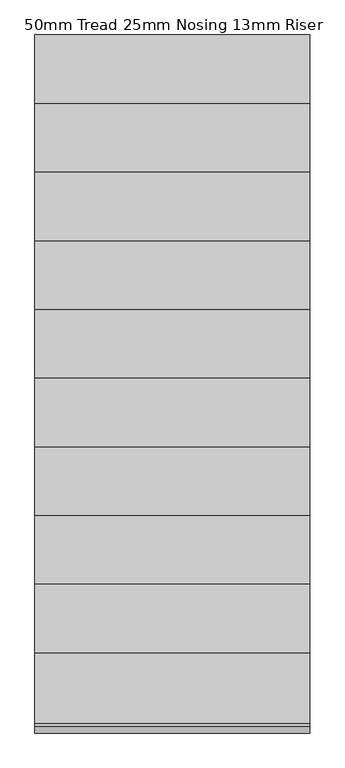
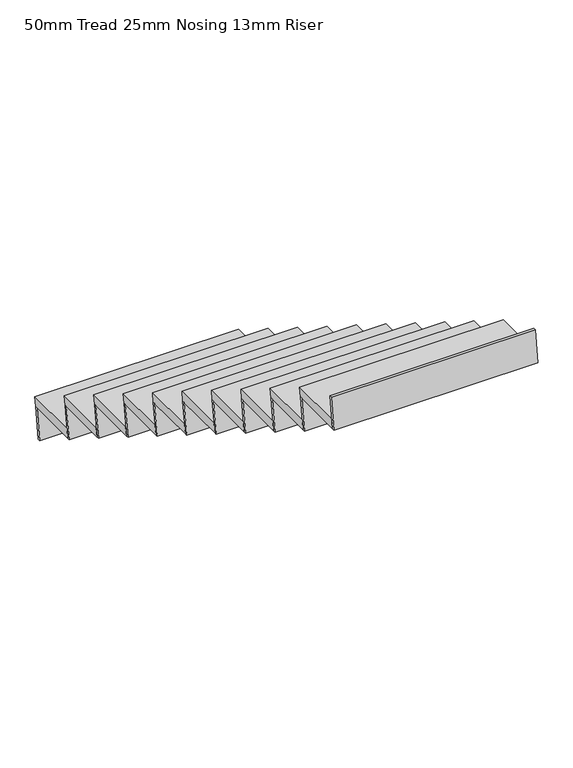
"""IFC4 building model written with IfcOpenShell, lengths in millimetres: stair flight geometry, 50mm Tread 25mm Nosing 13mm Riser."""

import ifcopenshell
import ifcopenshell.guid

model = None  # the IFC model being written
_history = None  # IfcOwnerHistory: only IFC2X3 demands one
_inside = {}  # id of a spatial element -> (the spatial element, [elements in it])
_under = {}  # id of a project, library or spatial element -> (it, [spatial elements below it])
_declared = {}  # id of a project -> (the project, [libraries it declares])
_typed = {}  # id of a type object -> (the type object, [elements of that type])
_made_of = {}  # id of a material, layer set ... -> (it, [elements and type objects made of it])


def new_model(schema):
    """Start an empty IFC model of exactly this schema.

    Asked for "IFC4X3", IfcOpenShell would pick the latest addendum, in which some entities
    have other attributes; the version numbers below select the first issue.
    IFC2X3 requires an IfcOwnerHistory on every rooted entity: one is made here for all.
    """
    global model, _history
    if schema == "IFC4X3":
        model = ifcopenshell.file(schema_version=(4, 3, 0, 0))
    else:
        model = ifcopenshell.file(schema=schema)
    _inside.clear()
    _under.clear()
    _declared.clear()
    _typed.clear()
    _made_of.clear()
    _history = None
    if model.schema == "IFC2X3":
        org = make("IfcOrganization", Name="unknown")
        user = make(
            "IfcPersonAndOrganization",
            ThePerson=make("IfcPerson", FamilyName="unknown"),
            TheOrganization=org,
        )
        app = make(
            "IfcApplication",
            ApplicationDeveloper=org,
            Version="unknown",
            ApplicationFullName="unknown",
            ApplicationIdentifier="unknown",
        )
        _history = make(
            "IfcOwnerHistory",
            OwningUser=user,
            OwningApplication=app,
            ChangeAction="ADDED",
            CreationDate=0,
        )
    return model


def make(cls, **values):
    """One entity of the class cls with the attributes given. An attribute that is None is left unset."""
    return model.create_entity(
        cls, **{name: value for name, value in values.items() if value is not None}
    )


def rooted(cls, **values):
    """An entity with a GlobalId (a new one), such as an element, a storey or a relation."""
    return make(cls, GlobalId=ifcopenshell.guid.new(), OwnerHistory=_history, **values)


def si_unit(unit_type, name, prefix=None):
    """IfcSIUnit, for example si_unit("LENGTHUNIT", "METRE", prefix="MILLI")."""
    return make("IfcSIUnit", UnitType=unit_type, Prefix=prefix, Name=name)


def assignment(units):
    """IfcUnitAssignment: the units of a project."""
    return None if units is None else make("IfcUnitAssignment", Units=units)


def point(xyz):
    """IfcCartesianPoint."""
    return None if xyz is None else make("IfcCartesianPoint", Coordinates=xyz)


def direction(xyz):
    """IfcDirection."""
    return None if xyz is None else make("IfcDirection", DirectionRatios=xyz)


def frame(location, z_axis=None, x_axis=None):
    """IfcAxis2Placement3D, a coordinate frame: its origin and axes. An axis left out is left unset."""
    return make(
        "IfcAxis2Placement3D",
        Location=point(location),
        Axis=direction(z_axis),
        RefDirection=direction(x_axis),
    )


def origin():
    """The frame at (0, 0, 0) with its axes left unset."""
    return frame((0.0, 0.0, 0.0))


def place(relative_to, where):
    """IfcLocalPlacement: puts the frame where relative to a parent placement (None: the world)."""
    return make(
        "IfcLocalPlacement", PlacementRelTo=relative_to, RelativePlacement=where
    )


def context(
    kind, dimensions, precision=None, world=None, true_north=None, identifier=None
):
    """IfcGeometricRepresentationContext, for example the 3D "Model" context."""
    return make(
        "IfcGeometricRepresentationContext",
        ContextIdentifier=identifier,
        ContextType=kind,
        CoordinateSpaceDimension=dimensions,
        Precision=precision,
        WorldCoordinateSystem=world,
        TrueNorth=true_north,
    )


def project(units=None, contexts=None):
    """IfcProject with its units and contexts."""
    return rooted(
        "IfcProject",
        Name="project",
        RepresentationContexts=contexts,
        UnitsInContext=assignment(units),
    )


def spatial(cls, under=None, at=None, **own):
    """A site, building, storey or space (cls), placed at a placement, below another one or the project."""
    s = rooted(cls, ObjectPlacement=at, **own)
    if under is not None:
        _under.setdefault(under.id(), (under, []))[1].append(s)
    return s


def polyline(points):
    """IfcPolyline through the points."""
    return make("IfcPolyline", Points=[point(p) for p in points])


def outline(outer, holes=None, kind="AREA"):
    """IfcArbitraryClosedProfileDef: a profile drawn as a closed curve; with holes, ...WithVoids."""
    if holes is None:
        return make("IfcArbitraryClosedProfileDef", ProfileType=kind, OuterCurve=outer)
    return make(
        "IfcArbitraryProfileDefWithVoids",
        ProfileType=kind,
        OuterCurve=outer,
        InnerCurves=holes,
    )


def extrude(swept, where, along, depth):
    """IfcExtrudedAreaSolid: the profile swept, set in the frame where, extruded along a direction by depth."""
    return make(
        "IfcExtrudedAreaSolid",
        SweptArea=swept,
        Position=where,
        ExtrudedDirection=direction(along),
        Depth=depth,
    )


def shape(context_of_items, identifier, shape_type, items):
    """IfcShapeRepresentation: the items that make up one representation, for example the "Body"."""
    return make(
        "IfcShapeRepresentation",
        ContextOfItems=context_of_items,
        RepresentationIdentifier=identifier,
        RepresentationType=shape_type,
        Items=items,
    )


def source(mapping_origin, context_of_items, identifier, shape_type, items):
    """IfcRepresentationMap: a shape defined once, which mapped items show again and again."""
    return make(
        "IfcRepresentationMap",
        MappingOrigin=mapping_origin,
        MappedRepresentation=shape(context_of_items, identifier, shape_type, items),
    )


def transform(
    local_origin,
    x_axis=None,
    y_axis=None,
    z_axis=None,
    scale=None,
    scale2=None,
    scale3=None,
    uniform=True,
):
    """IfcCartesianTransformationOperator3D, or its non-uniform kind. x_axis, y_axis, z_axis: its Axis1, 2, 3."""
    if uniform:
        return make(
            "IfcCartesianTransformationOperator3D",
            Axis1=direction(x_axis),
            Axis2=direction(y_axis),
            LocalOrigin=point(local_origin),
            Scale=scale,
            Axis3=direction(z_axis),
        )
    return make(
        "IfcCartesianTransformationOperator3DnonUniform",
        Axis1=direction(x_axis),
        Axis2=direction(y_axis),
        LocalOrigin=point(local_origin),
        Scale=scale,
        Axis3=direction(z_axis),
        Scale2=scale2,
        Scale3=scale3,
    )


def mapped(mapping_source, mapping_target):
    """IfcMappedItem: shows the shape of a source again, moved by a transform."""
    return make(
        "IfcMappedItem", MappingSource=mapping_source, MappingTarget=mapping_target
    )


def made_of(thing, what):
    """Note that an element or type object is made of a material, layer set ...; save() writes the relation."""
    if what is not None:
        _made_of.setdefault(what.id(), (what, []))[1].append(thing)
    return thing


def element(
    cls,
    number,
    at=None,
    inside=None,
    cuts=None,
    type_object=None,
    material=None,
    context=None,
    identifier="Body",
    shape_type=None,
    held_by="IfcProductDefinitionShape",
    body=None,
    shapes=None,
    **own,
):
    """One element of the class cls, such as IfcWall. Its Tag is "e" and its number.

    at: its placement. inside: the storey or other place that contains it. cuts: it is an
    opening in that element (IfcRelVoidsElement). A single representation is given by context,
    identifier, shape_type and body (its items); several are given by shapes. held_by: the class
    of the entity that holds the representations. save() writes the other relations.
    """
    e = rooted(cls, Tag="e%d" % number, ObjectPlacement=at, **own)
    if body is not None:
        shapes = [shape(context, identifier, shape_type, body)]
    if shapes is not None:
        e.Representation = make(held_by, Representations=shapes)
    if inside is not None:
        _inside.setdefault(inside.id(), (inside, []))[1].append(e)
    if cuts is not None:
        rooted(
            "IfcRelVoidsElement", RelatingBuildingElement=cuts, RelatedOpeningElement=e
        )
    if type_object is not None:
        _typed.setdefault(type_object.id(), (type_object, []))[1].append(e)
    return made_of(e, material)


def aggregate(whole, parts):
    """IfcRelAggregates: a whole, such as a stair, and the parts it consists of."""
    return rooted("IfcRelAggregates", RelatingObject=whole, RelatedObjects=parts)


def save(model, path):
    """Write the relations noted so far, then the file.

    IfcRelAggregates (storeys below a building ...), IfcRelContainedInSpatialStructure (elements
    in a storey), IfcRelDefinesByType, IfcRelAssociatesMaterial and IfcRelDeclares: one each for
    every whole, place, type object, material and project.
    """
    for whole, parts in _under.values():
        aggregate(whole, parts)
    for where, things in _inside.values():
        rooted(
            "IfcRelContainedInSpatialStructure",
            RelatedElements=things,
            RelatingStructure=where,
        )
    for kind, things in _typed.values():
        rooted("IfcRelDefinesByType", RelatedObjects=things, RelatingType=kind)
    for what, things in _made_of.values():
        rooted("IfcRelAssociatesMaterial", RelatedObjects=things, RelatingMaterial=what)
    for by, libraries in _declared.values():
        rooted("IfcRelDeclares", RelatingContext=by, RelatedDefinitions=libraries)
    model.write(path)


def stair_flight_50mm_tread_25mm_nosing_13mm_riser_29f21586(model_context):
    return source(origin(), model_context, "Body", "SweptSolid", [
        extrude(outline(polyline([(1750.5392059, 2072.7272727), (2050.5392059, 2072.7272727), (2043.3023638, 2022.7272727), (1743.3023638, 2022.7272727), (1750.5392059, 2072.7272727)])), frame((2568.6567657, 0.0, 0.0), z_axis=(1.0, 0.0, 0.0), x_axis=(0.0, 1.0, 0.0)), (0.0, 0.0, 1.0), 1100.0),
        extrude(outline(polyline([(2043.3023638, 2022.7272727), (2018.3023638, 1850.0), (2005.6721127, 1850.0), (2030.6721127, 2022.7272727), (2043.3023638, 2022.7272727)])), frame((2568.6567657, 0.0, 0.0), z_axis=(1.0, 0.0, 0.0), x_axis=(0.0, 1.0, 0.0)), (0.0, 0.0, 1.0), 1100.0),
        extrude(outline(polyline([(1768.3023638, 2195.4545455), (1743.3023638, 2022.7272727), (1730.6721127, 2022.7272727), (1755.6721127, 2195.4545455), (1768.3023638, 2195.4545455)])), frame((2568.6567657, 0.0, 0.0), z_axis=(1.0, 0.0, 0.0), x_axis=(0.0, 1.0, 0.0)), (0.0, 0.0, 1.0), 1100.0),
        extrude(outline(polyline([(1475.5392059, 2245.4545455), (1775.5392059, 2245.4545455), (1768.3023638, 2195.4545455), (1468.3023638, 2195.4545455), (1475.5392059, 2245.4545455)])), frame((2568.6567657, 0.0, 0.0), z_axis=(1.0, 0.0, 0.0), x_axis=(0.0, 1.0, 0.0)), (0.0, 0.0, 1.0), 1100.0),
        extrude(outline(polyline([(1493.3023638, 2368.1818182), (1468.3023638, 2195.4545455), (1455.6721127, 2195.4545455), (1480.6721127, 2368.1818182), (1493.3023638, 2368.1818182)])), frame((2568.6567657, 0.0, 0.0), z_axis=(1.0, 0.0, 0.0), x_axis=(0.0, 1.0, 0.0)), (0.0, 0.0, 1.0), 1100.0),
        extrude(outline(polyline([(1200.5392059, 2418.1818182), (1500.5392059, 2418.1818182), (1493.3023638, 2368.1818182), (1193.3023638, 2368.1818182), (1200.5392059, 2418.1818182)])), frame((2568.6567657, 0.0, 0.0), z_axis=(1.0, 0.0, 0.0), x_axis=(0.0, 1.0, 0.0)), (0.0, 0.0, 1.0), 1100.0),
        extrude(outline(polyline([(1218.3023638, 2540.9090909), (1193.3023638, 2368.1818182), (1180.6721127, 2368.1818182), (1205.6721127, 2540.9090909), (1218.3023638, 2540.9090909)])), frame((2568.6567657, 0.0, 0.0), z_axis=(1.0, 0.0, 0.0), x_axis=(0.0, 1.0, 0.0)), (0.0, 0.0, 1.0), 1100.0),
        extrude(outline(polyline([(925.5392059, 2590.9090909), (1225.5392059, 2590.9090909), (1218.3023638, 2540.9090909), (918.3023638, 2540.9090909), (925.5392059, 2590.9090909)])), frame((2568.6567657, 0.0, 0.0), z_axis=(1.0, 0.0, 0.0), x_axis=(0.0, 1.0, 0.0)), (0.0, 0.0, 1.0), 1100.0),
        extrude(outline(polyline([(943.3023638, 2713.6363636), (918.3023638, 2540.9090909), (905.6721127, 2540.9090909), (930.6721127, 2713.6363636), (943.3023638, 2713.6363636)])), frame((2568.6567657, 0.0, 0.0), z_axis=(1.0, 0.0, 0.0), x_axis=(0.0, 1.0, 0.0)), (0.0, 0.0, 1.0), 1100.0),
        extrude(outline(polyline([(650.5392059, 2763.6363636), (950.5392059, 2763.6363636), (943.3023638, 2713.6363636), (643.3023638, 2713.6363636), (650.5392059, 2763.6363636)])), frame((2568.6567657, 0.0, 0.0), z_axis=(1.0, 0.0, 0.0), x_axis=(0.0, 1.0, 0.0)), (0.0, 0.0, 1.0), 1100.0),
        extrude(outline(polyline([(668.3023638, 2886.3636364), (643.3023638, 2713.6363636), (630.6721127, 2713.6363636), (655.6721127, 2886.3636364), (668.3023638, 2886.3636364)])), frame((2568.6567657, 0.0, 0.0), z_axis=(1.0, 0.0, 0.0), x_axis=(0.0, 1.0, 0.0)), (0.0, 0.0, 1.0), 1100.0),
        extrude(outline(polyline([(375.5392059, 2936.3636364), (675.5392059, 2936.3636364), (668.3023638, 2886.3636364), (368.3023638, 2886.3636364), (375.5392059, 2936.3636364)])), frame((2568.6567657, 0.0, 0.0), z_axis=(1.0, 0.0, 0.0), x_axis=(0.0, 1.0, 0.0)), (0.0, 0.0, 1.0), 1100.0),
        extrude(outline(polyline([(393.3023638, 3059.0909091), (368.3023638, 2886.3636364), (355.6721127, 2886.3636364), (380.6721127, 3059.0909091), (393.3023638, 3059.0909091)])), frame((2568.6567657, 0.0, 0.0), z_axis=(1.0, 0.0, 0.0), x_axis=(0.0, 1.0, 0.0)), (0.0, 0.0, 1.0), 1100.0),
        extrude(outline(polyline([(100.5392059, 3109.0909091), (400.5392059, 3109.0909091), (393.3023638, 3059.0909091), (93.3023638, 3059.0909091), (100.5392059, 3109.0909091)])), frame((2568.6567657, 0.0, 0.0), z_axis=(1.0, 0.0, 0.0), x_axis=(0.0, 1.0, 0.0)), (0.0, 0.0, 1.0), 1100.0),
        extrude(outline(polyline([(118.3023638, 3231.8181818), (93.3023638, 3059.0909091), (80.6721127, 3059.0909091), (105.6721127, 3231.8181818), (118.3023638, 3231.8181818)])), frame((2568.6567657, 0.0, 0.0), z_axis=(1.0, 0.0, 0.0), x_axis=(0.0, 1.0, 0.0)), (0.0, 0.0, 1.0), 1100.0),
        extrude(outline(polyline([(-174.4607941, 3281.8181818), (125.5392059, 3281.8181818), (118.3023638, 3231.8181818), (-181.6976362, 3231.8181818), (-174.4607941, 3281.8181818)])), frame((2568.6567657, 0.0, 0.0), z_axis=(1.0, 0.0, 0.0), x_axis=(0.0, 1.0, 0.0)), (0.0, 0.0, 1.0), 1100.0),
        extrude(outline(polyline([(-156.6976362, 3404.5454545), (-181.6976362, 3231.8181818), (-194.3278873, 3231.8181818), (-169.3278873, 3404.5454545), (-156.6976362, 3404.5454545)])), frame((2568.6567657, 0.0, 0.0), z_axis=(1.0, 0.0, 0.0), x_axis=(0.0, 1.0, 0.0)), (0.0, 0.0, 1.0), 1100.0),
        extrude(outline(polyline([(-449.4607941, 3454.5454545), (-149.4607941, 3454.5454545), (-156.6976362, 3404.5454545), (-456.6976362, 3404.5454545), (-449.4607941, 3454.5454545)])), frame((2568.6567657, 0.0, 0.0), z_axis=(1.0, 0.0, 0.0), x_axis=(0.0, 1.0, 0.0)), (0.0, 0.0, 1.0), 1100.0),
        extrude(outline(polyline([(-431.6976362, 3577.2727273), (-456.6976362, 3404.5454545), (-469.3278873, 3404.5454545), (-444.3278873, 3577.2727273), (-431.6976362, 3577.2727273)])), frame((2568.6567657, 0.0, 0.0), z_axis=(1.0, 0.0, 0.0), x_axis=(0.0, 1.0, 0.0)), (0.0, 0.0, 1.0), 1100.0),
        extrude(outline(polyline([(-706.6976362, 3750.0), (-731.6976362, 3577.2727273), (-744.3278873, 3577.2727273), (-719.3278873, 3750.0), (-706.6976362, 3750.0)])), frame((2568.6567657, 0.0, 0.0), z_axis=(1.0, 0.0, 0.0), x_axis=(0.0, 1.0, 0.0)), (0.0, 0.0, 1.0), 1100.0),
        extrude(outline(polyline([(-724.4607941, 3627.2727273), (-424.4607941, 3627.2727273), (-431.6976362, 3577.2727273), (-731.6976362, 3577.2727273), (-724.4607941, 3627.2727273)])), frame((2568.6567657, 0.0, 0.0), z_axis=(1.0, 0.0, 0.0), x_axis=(0.0, 1.0, 0.0)), (0.0, 0.0, 1.0), 1100.0),
    ])


if __name__ == "__main__":
    model = new_model("IFC4")
    model_context = context("Model", 3, world=origin())
    ifc_project = project(units=[si_unit("LENGTHUNIT", "METRE", prefix="MILLI")], contexts=[model_context])
    site = spatial("IfcSite", under=ifc_project)
    building = spatial("IfcBuilding", under=site)
    placement = place(None, origin())
    stair_flight_50mm_tread_25mm_nosing_13mm_riser_shape = stair_flight_50mm_tread_25mm_nosing_13mm_riser_29f21586(model_context)
    element("IfcStairFlight", 1, ObjectType="50mm Tread 25mm Nosing 13mm Riser", at=placement, inside=building, context=model_context, shape_type="MappedRepresentation", body=[
        mapped(stair_flight_50mm_tread_25mm_nosing_13mm_riser_shape, transform((0.0, 0.0, 0.0), x_axis=(1.0, 0.0, 0.0), y_axis=(0.0, 1.0, 0.0), z_axis=(0.0, 0.0, 1.0))),
    ])
    save(model, "model.ifc")
